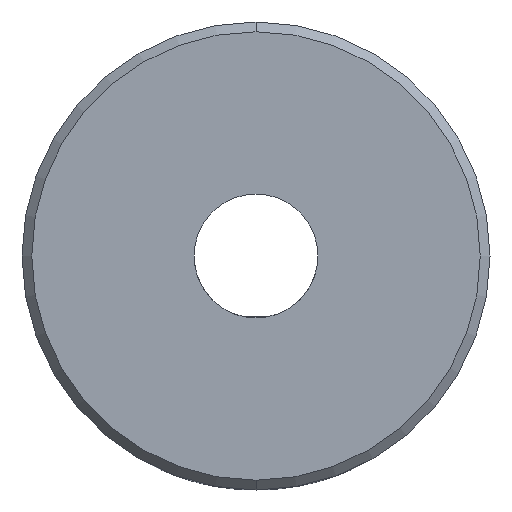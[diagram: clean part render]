
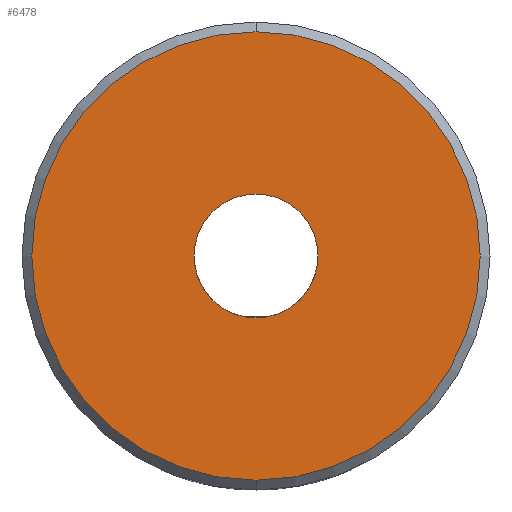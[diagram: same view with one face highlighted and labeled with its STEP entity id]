
A CAD part, front view. The second image highlights one B-rep face of the part: STEP entity #6478.
In plain terms, the highlighted planar face has unit normal (0, -1, 0).
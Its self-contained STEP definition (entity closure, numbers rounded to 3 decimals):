
#2 = ORIENTED_EDGE ( 'NONE', *, *, #5566, .T. ) ;
#260 = CARTESIAN_POINT ( 'NONE',  ( 0., -4., 0. ) ) ;
#466 = CARTESIAN_POINT ( 'NONE',  ( 0., -4., -5.75 ) ) ;
#508 = DIRECTION ( 'NONE',  ( 0., 0., 1. ) ) ;
#603 = CARTESIAN_POINT ( 'NONE',  ( 0., -4., 5.75 ) ) ;
#648 = VERTEX_POINT ( 'NONE', #5906 ) ;
#1016 = CIRCLE ( 'NONE', #2936, 1.587 ) ;
#1221 = DIRECTION ( 'NONE',  ( 0., 1., 0. ) ) ;
#1521 = EDGE_LOOP ( 'NONE', ( #2063, #7412 ) ) ;
#1618 = AXIS2_PLACEMENT_3D ( 'NONE', #5867, #2623, #2686 ) ;
#2063 = ORIENTED_EDGE ( 'NONE', *, *, #5860, .T. ) ;
#2623 = DIRECTION ( 'NONE',  ( 0., -1., 0. ) ) ;
#2625 = DIRECTION ( 'NONE',  ( 0., 1., 0. ) ) ;
#2638 = FACE_BOUND ( 'NONE', #1521, .T. ) ;
#2686 = DIRECTION ( 'NONE',  ( 0., 0., 1. ) ) ;
#2820 = DIRECTION ( 'NONE',  ( 0., -1., 0. ) ) ;
#2860 = CIRCLE ( 'NONE', #3781, 1.587 ) ;
#2936 = AXIS2_PLACEMENT_3D ( 'NONE', #6775, #4178, #8001 ) ;
#3232 = PLANE ( 'NONE',  #4073 ) ;
#3284 = AXIS2_PLACEMENT_3D ( 'NONE', #260, #2820, #4818 ) ;
#3671 = EDGE_CURVE ( 'NONE', #648, #6932, #2860, .T. ) ;
#3781 = AXIS2_PLACEMENT_3D ( 'NONE', #7073, #1221, #508 ) ;
#3853 = CARTESIAN_POINT ( 'NONE',  ( 0., -4., 0. ) ) ;
#3917 = DIRECTION ( 'NONE',  ( 0., 0., 1. ) ) ;
#4017 = EDGE_LOOP ( 'NONE', ( #7524, #2 ) ) ;
#4073 = AXIS2_PLACEMENT_3D ( 'NONE', #3853, #2625, #3917 ) ;
#4178 = DIRECTION ( 'NONE',  ( 0., 1., 0. ) ) ;
#4755 = EDGE_CURVE ( 'NONE', #8044, #7012, #5178, .T. ) ;
#4818 = DIRECTION ( 'NONE',  ( 0., 0., 1. ) ) ;
#4884 = FACE_OUTER_BOUND ( 'NONE', #4017, .T. ) ;
#5178 = CIRCLE ( 'NONE', #3284, 5.75 ) ;
#5566 = EDGE_CURVE ( 'NONE', #7012, #8044, #5895, .T. ) ;
#5860 = EDGE_CURVE ( 'NONE', #6932, #648, #1016, .T. ) ;
#5867 = CARTESIAN_POINT ( 'NONE',  ( 0., -4., 0. ) ) ;
#5895 = CIRCLE ( 'NONE', #1618, 5.75 ) ;
#5906 = CARTESIAN_POINT ( 'NONE',  ( 0., -4., 1.587 ) ) ;
#6478 = ADVANCED_FACE ( 'NONE', ( #4884, #2638 ), #3232, .F. ) ;
#6775 = CARTESIAN_POINT ( 'NONE',  ( 0., -4., 0. ) ) ;
#6932 = VERTEX_POINT ( 'NONE', #6942 ) ;
#6942 = CARTESIAN_POINT ( 'NONE',  ( 0., -4., -1.587 ) ) ;
#7012 = VERTEX_POINT ( 'NONE', #466 ) ;
#7073 = CARTESIAN_POINT ( 'NONE',  ( 0., -4., 0. ) ) ;
#7412 = ORIENTED_EDGE ( 'NONE', *, *, #3671, .T. ) ;
#7524 = ORIENTED_EDGE ( 'NONE', *, *, #4755, .T. ) ;
#8001 = DIRECTION ( 'NONE',  ( 0., 0., 1. ) ) ;
#8044 = VERTEX_POINT ( 'NONE', #603 ) ;
